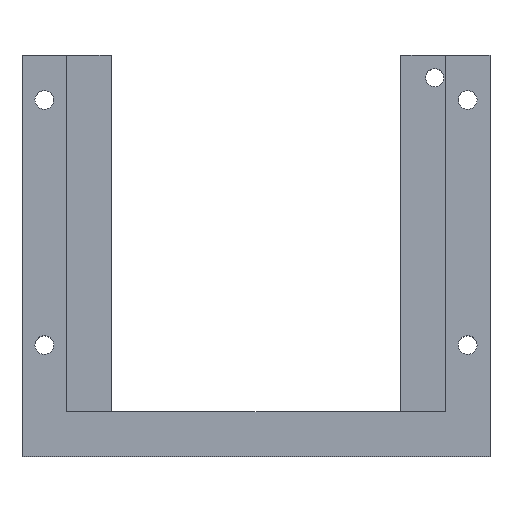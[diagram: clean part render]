
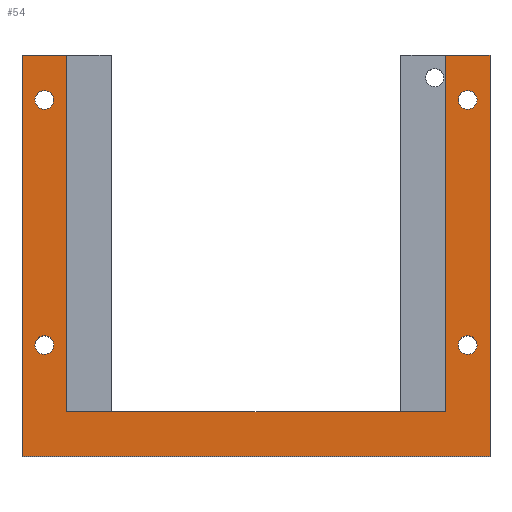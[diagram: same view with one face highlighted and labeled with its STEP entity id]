
A CAD part, top view. The second image highlights one B-rep face of the part: STEP entity #54.
In plain terms, the highlighted planar face has unit normal (0, 0, 1).
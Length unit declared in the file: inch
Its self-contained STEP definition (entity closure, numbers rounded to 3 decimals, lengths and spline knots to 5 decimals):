
#4 = CARTESIAN_POINT ( 'NONE',  ( -0.37044, -0.51779, 1. ) ) ;
#9 = VERTEX_POINT ( 'NONE', #4 ) ;
#14 = CARTESIAN_POINT ( 'NONE',  ( -0.62044, -0.51779, 1. ) ) ;
#20 = DIRECTION ( 'NONE',  ( 0., 0., -1. ) ) ;
#21 = DIRECTION ( 'NONE',  ( -1., 0., 0. ) ) ;
#36 = DIRECTION ( 'NONE',  ( 0., 1., 0. ) ) ;
#46 = ORIENTED_EDGE ( 'NONE', *, *, #249, .T. ) ;
#54 = ADVANCED_FACE ( 'NONE', ( #87, #199, #500, #533, #634 ), #275, .T. ) ;
#55 = CARTESIAN_POINT ( 'NONE',  ( 0.12956, -0.01779, 1. ) ) ;
#59 = DIRECTION ( 'NONE',  ( 1., 0., 0. ) ) ;
#63 = VERTEX_POINT ( 'NONE', #55 ) ;
#72 = CARTESIAN_POINT ( 'NONE',  ( 4.87956, -0.51779, 1. ) ) ;
#79 = CARTESIAN_POINT ( 'NONE',  ( 4.52456, 3.48221, 1. ) ) ;
#87 = FACE_BOUND ( 'NONE', #371, .T. ) ;
#90 = ORIENTED_EDGE ( 'NONE', *, *, #781, .T. ) ;
#97 = EDGE_CURVE ( 'NONE', #9, #573, #462, .T. ) ;
#99 = DIRECTION ( 'NONE',  ( 0., 0., 1. ) ) ;
#102 = EDGE_CURVE ( 'NONE', #459, #768, #134, .T. ) ;
#105 = ORIENTED_EDGE ( 'NONE', *, *, #607, .T. ) ;
#107 = CARTESIAN_POINT ( 'NONE',  ( 4.87956, 3.98221, 1. ) ) ;
#111 = CARTESIAN_POINT ( 'NONE',  ( 4.73456, 0.73221, 1. ) ) ;
#114 = CIRCLE ( 'NONE', #140, 0.105 ) ;
#122 = ORIENTED_EDGE ( 'NONE', *, *, #102, .T. ) ;
#124 = ORIENTED_EDGE ( 'NONE', *, *, #809, .T. ) ;
#127 = ORIENTED_EDGE ( 'NONE', *, *, #611, .F. ) ;
#130 = CARTESIAN_POINT ( 'NONE',  ( 4.87956, -0.51779, 1. ) ) ;
#134 = CIRCLE ( 'NONE', #526, 0.105 ) ;
#138 = DIRECTION ( 'NONE',  ( 0., -1., 0. ) ) ;
#139 = AXIS2_PLACEMENT_3D ( 'NONE', #818, #816, #810 ) ;
#140 = AXIS2_PLACEMENT_3D ( 'NONE', #426, #300, #409 ) ;
#142 = DIRECTION ( 'NONE',  ( -1., 0., 0. ) ) ;
#144 = DIRECTION ( 'NONE',  ( 1., 0., 0. ) ) ;
#155 = VECTOR ( 'NONE', #144, 39.37008 ) ;
#164 = CARTESIAN_POINT ( 'NONE',  ( 0.12956, -0.01779, 1. ) ) ;
#167 = EDGE_LOOP ( 'NONE', ( #124, #266 ) ) ;
#181 = CARTESIAN_POINT ( 'NONE',  ( -0.22544, 3.48221, 1. ) ) ;
#182 = CARTESIAN_POINT ( 'NONE',  ( -0.01544, 0.73221, 1. ) ) ;
#186 = DIRECTION ( 'NONE',  ( 0., 0., -1. ) ) ;
#187 = DIRECTION ( 'NONE',  ( -1., 0., 0. ) ) ;
#190 = CARTESIAN_POINT ( 'NONE',  ( -0.12044, 3.48221, 1. ) ) ;
#193 = ORIENTED_EDGE ( 'NONE', *, *, #716, .F. ) ;
#197 = CARTESIAN_POINT ( 'NONE',  ( -0.01544, 3.48221, 1. ) ) ;
#199 = FACE_BOUND ( 'NONE', #832, .T. ) ;
#210 = CARTESIAN_POINT ( 'NONE',  ( 4.62956, 0.73221, 1. ) ) ;
#215 = ORIENTED_EDGE ( 'NONE', *, *, #854, .F. ) ;
#216 = CARTESIAN_POINT ( 'NONE',  ( 0.12956, 3.98221, 1. ) ) ;
#228 = ORIENTED_EDGE ( 'NONE', *, *, #97, .F. ) ;
#233 = ORIENTED_EDGE ( 'NONE', *, *, #619, .T. ) ;
#234 = CARTESIAN_POINT ( 'NONE',  ( 4.37956, -0.01779, 1. ) ) ;
#235 = DIRECTION ( 'NONE',  ( 0., 0., -1. ) ) ;
#236 = CARTESIAN_POINT ( 'NONE',  ( 4.62956, 3.48221, 1. ) ) ;
#238 = CARTESIAN_POINT ( 'NONE',  ( -0.37044, -0.51779, 1. ) ) ;
#241 = EDGE_CURVE ( 'NONE', #320, #549, #556, .T. ) ;
#248 = AXIS2_PLACEMENT_3D ( 'NONE', #656, #653, #335 ) ;
#249 = EDGE_CURVE ( 'NONE', #578, #316, #889, .T. ) ;
#253 = CARTESIAN_POINT ( 'NONE',  ( -0.37044, 3.98221, 1. ) ) ;
#256 = CARTESIAN_POINT ( 'NONE',  ( 4.73456, 3.48221, 1. ) ) ;
#258 = VERTEX_POINT ( 'NONE', #256 ) ;
#265 = VERTEX_POINT ( 'NONE', #216 ) ;
#266 = ORIENTED_EDGE ( 'NONE', *, *, #407, .T. ) ;
#267 = ORIENTED_EDGE ( 'NONE', *, *, #843, .T. ) ;
#275 = PLANE ( 'NONE',  #560 ) ;
#279 = EDGE_CURVE ( 'NONE', #9, #383, #437, .T. ) ;
#298 = LINE ( 'NONE', #72, #451 ) ;
#300 = DIRECTION ( 'NONE',  ( 0., 0., -1. ) ) ;
#311 = EDGE_LOOP ( 'NONE', ( #46, #90 ) ) ;
#316 = VERTEX_POINT ( 'NONE', #111 ) ;
#320 = VERTEX_POINT ( 'NONE', #107 ) ;
#326 = CARTESIAN_POINT ( 'NONE',  ( -0.12044, 0.73221, 1. ) ) ;
#331 = DIRECTION ( 'NONE',  ( 0., 0., -1. ) ) ;
#334 = ORIENTED_EDGE ( 'NONE', *, *, #241, .T. ) ;
#335 = DIRECTION ( 'NONE',  ( -1., 0., 0. ) ) ;
#365 = VERTEX_POINT ( 'NONE', #79 ) ;
#371 = EDGE_LOOP ( 'NONE', ( #908, #917 ) ) ;
#372 = EDGE_LOOP ( 'NONE', ( #267, #334, #127, #193, #215, #233, #228, #415 ) ) ;
#383 = VERTEX_POINT ( 'NONE', #130 ) ;
#399 = LINE ( 'NONE', #719, #548 ) ;
#403 = CARTESIAN_POINT ( 'NONE',  ( 4.62956, 3.48221, 1. ) ) ;
#407 = EDGE_CURVE ( 'NONE', #258, #365, #472, .T. ) ;
#409 = DIRECTION ( 'NONE',  ( -1., 0., 0. ) ) ;
#415 = ORIENTED_EDGE ( 'NONE', *, *, #279, .T. ) ;
#426 = CARTESIAN_POINT ( 'NONE',  ( -0.12044, 3.48221, 1. ) ) ;
#429 = EDGE_CURVE ( 'NONE', #863, #448, #514, .T. ) ;
#437 = LINE ( 'NONE', #14, #155 ) ;
#448 = VERTEX_POINT ( 'NONE', #181 ) ;
#449 = DIRECTION ( 'NONE',  ( -1., 0., 0. ) ) ;
#451 = VECTOR ( 'NONE', #36, 39.37008 ) ;
#453 = AXIS2_PLACEMENT_3D ( 'NONE', #190, #186, #187 ) ;
#459 = VERTEX_POINT ( 'NONE', #182 ) ;
#462 = LINE ( 'NONE', #238, #632 ) ;
#463 = AXIS2_PLACEMENT_3D ( 'NONE', #236, #235, #449 ) ;
#472 = CIRCLE ( 'NONE', #463, 0.105 ) ;
#476 = VECTOR ( 'NONE', #142, 39.37008 ) ;
#477 = DIRECTION ( 'NONE',  ( -1., 0., 0. ) ) ;
#500 = FACE_BOUND ( 'NONE', #311, .T. ) ;
#502 = CIRCLE ( 'NONE', #622, 0.105 ) ;
#503 = AXIS2_PLACEMENT_3D ( 'NONE', #210, #20, #21 ) ;
#514 = CIRCLE ( 'NONE', #453, 0.105 ) ;
#526 = AXIS2_PLACEMENT_3D ( 'NONE', #326, #331, #477 ) ;
#531 = DIRECTION ( 'NONE',  ( -1., 0., 0. ) ) ;
#533 = FACE_BOUND ( 'NONE', #167, .T. ) ;
#548 = VECTOR ( 'NONE', #706, 39.37008 ) ;
#549 = VERTEX_POINT ( 'NONE', #849 ) ;
#554 = DIRECTION ( 'NONE',  ( 0., 0., -1. ) ) ;
#556 = LINE ( 'NONE', #579, #476 ) ;
#560 = AXIS2_PLACEMENT_3D ( 'NONE', #621, #99, #59 ) ;
#573 = VERTEX_POINT ( 'NONE', #253 ) ;
#578 = VERTEX_POINT ( 'NONE', #860 ) ;
#579 = CARTESIAN_POINT ( 'NONE',  ( -0.62044, 3.98221, 1. ) ) ;
#596 = CIRCLE ( 'NONE', #248, 0.105 ) ;
#607 = EDGE_CURVE ( 'NONE', #768, #459, #734, .T. ) ;
#611 = EDGE_CURVE ( 'NONE', #858, #549, #743, .T. ) ;
#619 = EDGE_CURVE ( 'NONE', #265, #573, #708, .T. ) ;
#621 = CARTESIAN_POINT ( 'NONE',  ( 0., 0., 1. ) ) ;
#622 = AXIS2_PLACEMENT_3D ( 'NONE', #403, #554, #531 ) ;
#632 = VECTOR ( 'NONE', #797, 39.37008 ) ;
#634 = FACE_OUTER_BOUND ( 'NONE', #372, .T. ) ;
#653 = DIRECTION ( 'NONE',  ( 0., 0., -1. ) ) ;
#656 = CARTESIAN_POINT ( 'NONE',  ( 4.62956, 0.73221, 1. ) ) ;
#690 = CARTESIAN_POINT ( 'NONE',  ( -0.22544, 0.73221, 1. ) ) ;
#706 = DIRECTION ( 'NONE',  ( 1., 0., 0. ) ) ;
#708 = LINE ( 'NONE', #826, #754 ) ;
#716 = EDGE_CURVE ( 'NONE', #63, #858, #399, .T. ) ;
#719 = CARTESIAN_POINT ( 'NONE',  ( 0.62956, -0.01779, 1. ) ) ;
#723 = DIRECTION ( 'NONE',  ( -1., 0., 0. ) ) ;
#730 = LINE ( 'NONE', #164, #920 ) ;
#731 = EDGE_CURVE ( 'NONE', #448, #863, #114, .T. ) ;
#734 = CIRCLE ( 'NONE', #139, 0.105 ) ;
#743 = LINE ( 'NONE', #823, #747 ) ;
#747 = VECTOR ( 'NONE', #829, 39.37008 ) ;
#754 = VECTOR ( 'NONE', #723, 39.37008 ) ;
#768 = VERTEX_POINT ( 'NONE', #690 ) ;
#781 = EDGE_CURVE ( 'NONE', #316, #578, #596, .T. ) ;
#797 = DIRECTION ( 'NONE',  ( 0., 1., 0. ) ) ;
#809 = EDGE_CURVE ( 'NONE', #365, #258, #502, .T. ) ;
#810 = DIRECTION ( 'NONE',  ( -1., 0., 0. ) ) ;
#816 = DIRECTION ( 'NONE',  ( 0., 0., -1. ) ) ;
#818 = CARTESIAN_POINT ( 'NONE',  ( -0.12044, 0.73221, 1. ) ) ;
#823 = CARTESIAN_POINT ( 'NONE',  ( 4.37956, -0.01779, 1. ) ) ;
#826 = CARTESIAN_POINT ( 'NONE',  ( -0.62044, 3.98221, 1. ) ) ;
#829 = DIRECTION ( 'NONE',  ( 0., 1., 0. ) ) ;
#832 = EDGE_LOOP ( 'NONE', ( #105, #122 ) ) ;
#843 = EDGE_CURVE ( 'NONE', #383, #320, #298, .T. ) ;
#849 = CARTESIAN_POINT ( 'NONE',  ( 4.37956, 3.98221, 1. ) ) ;
#854 = EDGE_CURVE ( 'NONE', #265, #63, #730, .T. ) ;
#858 = VERTEX_POINT ( 'NONE', #234 ) ;
#860 = CARTESIAN_POINT ( 'NONE',  ( 4.52456, 0.73221, 1. ) ) ;
#863 = VERTEX_POINT ( 'NONE', #197 ) ;
#889 = CIRCLE ( 'NONE', #503, 0.105 ) ;
#908 = ORIENTED_EDGE ( 'NONE', *, *, #731, .T. ) ;
#917 = ORIENTED_EDGE ( 'NONE', *, *, #429, .T. ) ;
#920 = VECTOR ( 'NONE', #138, 39.37008 ) ;
